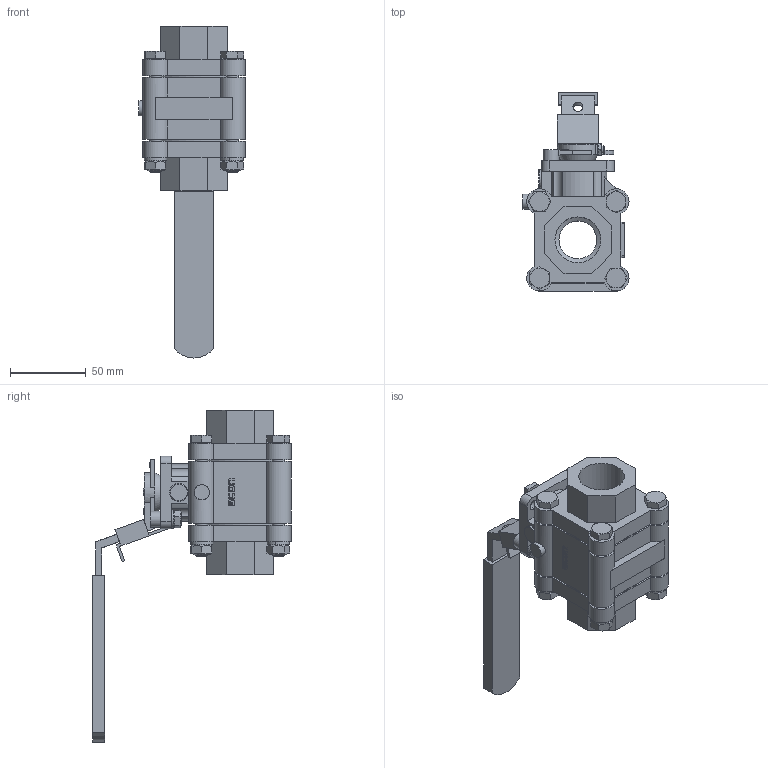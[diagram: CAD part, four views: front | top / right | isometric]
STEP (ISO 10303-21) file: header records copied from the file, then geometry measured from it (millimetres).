
FILE_DESCRIPTION(/* description */ ('Eriks item no: 13278893'),/* implementation_level */ '2;1');
FILE_NAME(/* name */ 'L:\DATA\ENG\Inventor\Econ 3D modellen\kogelkranen\7442\Rubens Versie\7442-DN25-FB.stp',/* time_stamp */ '2023-06-07T22:37:52+02:00',/* author */ ('roger.thijssen'),/* organization */ (''),/* preprocessor_version */ 'ST-DEVELOPER v18',/* originating_system */ 'Autodesk Inventor 2020',/* authorisation */ '');
FILE_SCHEMA (('CONFIG_CONTROL_DESIGN'));
Length unit declared in the file: millimetre
Products named in the file (1): Ball valve, 7442 - 1" - FB, (TF4103)
Bounding box: 70.1 x 131.16 x 219.5 mm (x, y, z)
Volume: 325604.2 mm3; surface area: 85477.9 mm2
Topology: 1 solids, 1 shells, 680 faces, 1799 edges, 1157 vertices
Faces by surface type: plane 442, cylinder 146, cone 60, bspline 30, sphere 1, torus 1
Full cylindrical faces by diameter (mm): 5 x2, 6 x1, 6.5 x2, 8 x8, 8.566 x1, 9 x11, 10 x1, 10.5 x1, 11.6 x4, 12 x1, 25 x1, 30 x1, 30.291 x2, 35 x1, 57 x2
Entity records: 21671 total; most frequent: CARTESIAN_POINT 4674, ORIENTED_EDGE 3596, DIRECTION 3395, EDGE_CURVE 1798, AXIS2_PLACEMENT_3D 1170, VERTEX_POINT 1157, LINE 1055, VECTOR 1055
